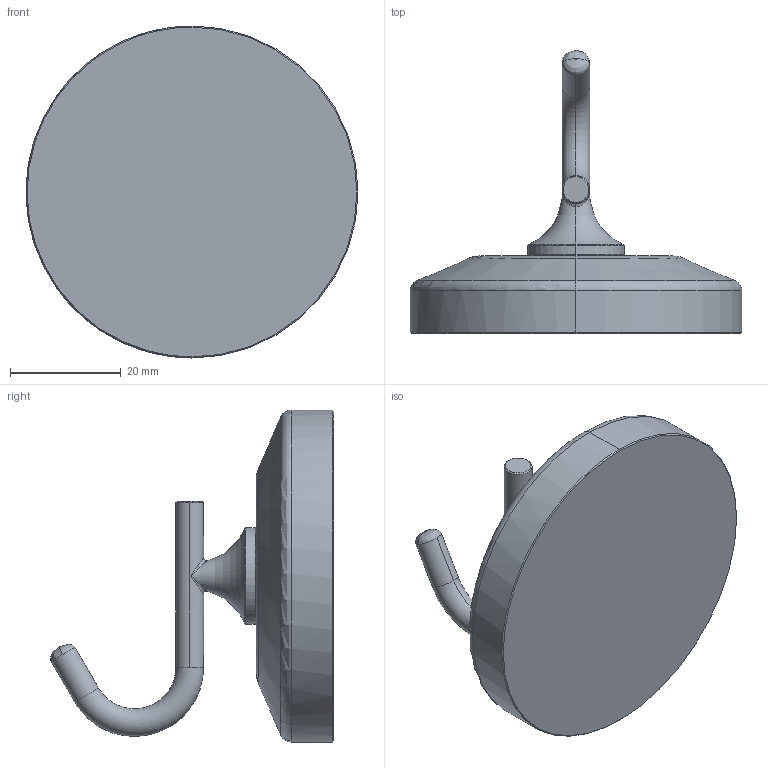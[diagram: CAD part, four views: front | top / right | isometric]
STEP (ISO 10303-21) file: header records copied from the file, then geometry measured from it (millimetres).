
FILE_DESCRIPTION(('THIS FILE CONTAINS SOME STEP INSTANCES'),'1');
FILE_NAME('sta_001.stp','2015-11-26T15:39:51',('UNDEFINED'),('UNDEFINED'),'T-FLEX CAD STEP converter','T-FLEX CAD','');
FILE_SCHEMA(('CONFIG_CONTROL_DESIGN'));
Length unit declared in the file: metre
Products named in the file (1): 3D 鐨飹懤艜_3
Bounding box: 60 x 51.19 x 60 mm (x, y, z)
Volume: 37134.6 mm3; surface area: 8657.6 mm2
Topology: 1 solids, 1 shells, 34 faces, 71 edges, 41 vertices
Faces by surface type: cone 10, cylinder 8, torus 8, plane 4, bspline 4
Entity records: 2779 total; most frequent: CARTESIAN_POINT 2178, ORIENTED_EDGE 142, DIRECTION 96, EDGE_CURVE 71, VERTEX_POINT 41, AXIS2_PLACEMENT_3D 39, EDGE_LOOP 36, ADVANCED_FACE 34
